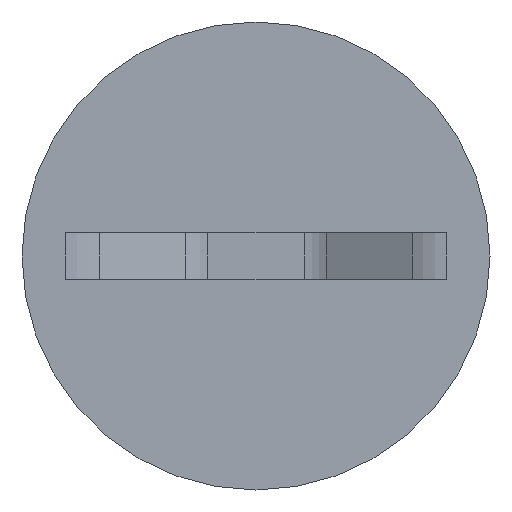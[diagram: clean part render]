
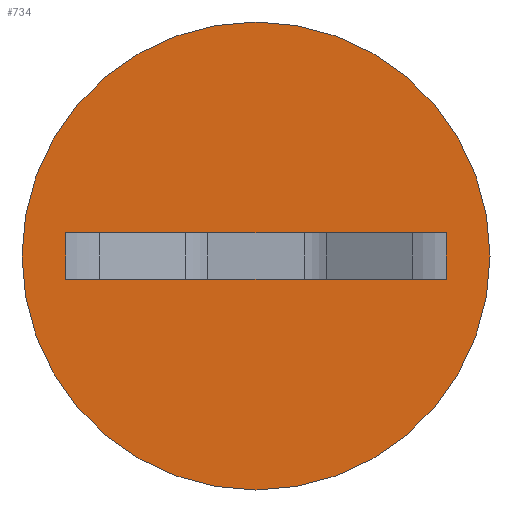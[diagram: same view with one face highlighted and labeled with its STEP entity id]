
A CAD part, front view. The second image highlights one B-rep face of the part: STEP entity #734.
In plain terms, the highlighted planar face has unit normal (0, -1, 0).
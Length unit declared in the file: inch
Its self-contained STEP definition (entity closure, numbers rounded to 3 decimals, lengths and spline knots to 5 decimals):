
#12 = CARTESIAN_POINT ( 'NONE',  ( 0.11674, -0.063, 0. ) ) ;
#15 = DIRECTION ( 'NONE',  ( -1., 0., 0. ) ) ;
#29 = LINE ( 'NONE', #789, #531 ) ;
#31 = ORIENTED_EDGE ( 'NONE', *, *, #138, .T. ) ;
#36 = EDGE_LOOP ( 'NONE', ( #728, #576, #687, #273 ) ) ;
#63 = LINE ( 'NONE', #559, #89 ) ;
#87 = AXIS2_PLACEMENT_3D ( 'NONE', #249, #521, #320 ) ;
#89 = VECTOR ( 'NONE', #122, 39.37008 ) ;
#93 = CARTESIAN_POINT ( 'NONE',  ( 1.13326, -0.063, 0. ) ) ;
#118 = LINE ( 'NONE', #609, #693 ) ;
#122 = DIRECTION ( 'NONE',  ( 1., 0., 0. ) ) ;
#138 = EDGE_CURVE ( 'NONE', #229, #348, #217, .T. ) ;
#171 = AXIS2_PLACEMENT_3D ( 'NONE', #620, #354, #487 ) ;
#182 = CARTESIAN_POINT ( 'NONE',  ( 0.625, -0.063, -0.0625 ) ) ;
#184 = VERTEX_POINT ( 'NONE', #596 ) ;
#193 = EDGE_LOOP ( 'NONE', ( #782, #31 ) ) ;
#215 = CARTESIAN_POINT ( 'NONE',  ( 0., -0.063, -0.0625 ) ) ;
#217 = CIRCLE ( 'NONE', #466, 0.625 ) ;
#229 = VERTEX_POINT ( 'NONE', #215 ) ;
#239 = CARTESIAN_POINT ( 'NONE',  ( 1.25, -0.063, -0.0625 ) ) ;
#249 = CARTESIAN_POINT ( 'NONE',  ( 0.625, -0.063, -0.0625 ) ) ;
#273 = ORIENTED_EDGE ( 'NONE', *, *, #664, .F. ) ;
#275 = PLANE ( 'NONE',  #171 ) ;
#298 = VERTEX_POINT ( 'NONE', #93 ) ;
#320 = DIRECTION ( 'NONE',  ( 1., 0., 0. ) ) ;
#322 = EDGE_CURVE ( 'NONE', #520, #601, #63, .T. ) ;
#331 = DIRECTION ( 'NONE',  ( 0., -1., 0. ) ) ;
#348 = VERTEX_POINT ( 'NONE', #239 ) ;
#354 = DIRECTION ( 'NONE',  ( 0., -1., 0. ) ) ;
#376 = LINE ( 'NONE', #12, #804 ) ;
#434 = CIRCLE ( 'NONE', #87, 0.625 ) ;
#452 = DIRECTION ( 'NONE',  ( 1., 0., 0. ) ) ;
#455 = CARTESIAN_POINT ( 'NONE',  ( 0.11674, -0.063, -0.125 ) ) ;
#460 = EDGE_CURVE ( 'NONE', #348, #229, #434, .T. ) ;
#466 = AXIS2_PLACEMENT_3D ( 'NONE', #182, #331, #452 ) ;
#487 = DIRECTION ( 'NONE',  ( 1., 0., 0. ) ) ;
#505 = EDGE_CURVE ( 'NONE', #298, #184, #376, .T. ) ;
#520 = VERTEX_POINT ( 'NONE', #455 ) ;
#521 = DIRECTION ( 'NONE',  ( 0., -1., 0. ) ) ;
#531 = VECTOR ( 'NONE', #786, 39.37008 ) ;
#559 = CARTESIAN_POINT ( 'NONE',  ( 0.11674, -0.063, -0.125 ) ) ;
#576 = ORIENTED_EDGE ( 'NONE', *, *, #787, .T. ) ;
#596 = CARTESIAN_POINT ( 'NONE',  ( 0.11674, -0.063, 0. ) ) ;
#601 = VERTEX_POINT ( 'NONE', #729 ) ;
#609 = CARTESIAN_POINT ( 'NONE',  ( 0.11674, -0.063, -0.125 ) ) ;
#620 = CARTESIAN_POINT ( 'NONE',  ( 1.13326, -0.063, -0.125 ) ) ;
#650 = FACE_BOUND ( 'NONE', #36, .T. ) ;
#664 = EDGE_CURVE ( 'NONE', #601, #298, #29, .T. ) ;
#687 = ORIENTED_EDGE ( 'NONE', *, *, #505, .F. ) ;
#693 = VECTOR ( 'NONE', #745, 39.37008 ) ;
#713 = FACE_OUTER_BOUND ( 'NONE', #193, .T. ) ;
#728 = ORIENTED_EDGE ( 'NONE', *, *, #322, .F. ) ;
#729 = CARTESIAN_POINT ( 'NONE',  ( 1.13326, -0.063, -0.125 ) ) ;
#734 = ADVANCED_FACE ( 'NONE', ( #713, #650 ), #275, .T. ) ;
#745 = DIRECTION ( 'NONE',  ( 0., 0., 1. ) ) ;
#782 = ORIENTED_EDGE ( 'NONE', *, *, #460, .T. ) ;
#786 = DIRECTION ( 'NONE',  ( 0., 0., 1. ) ) ;
#787 = EDGE_CURVE ( 'NONE', #520, #184, #118, .T. ) ;
#789 = CARTESIAN_POINT ( 'NONE',  ( 1.13326, -0.063, -0.125 ) ) ;
#804 = VECTOR ( 'NONE', #15, 39.37008 ) ;
